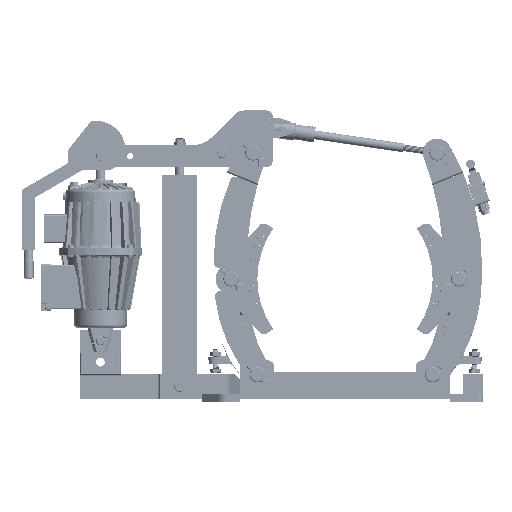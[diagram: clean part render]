
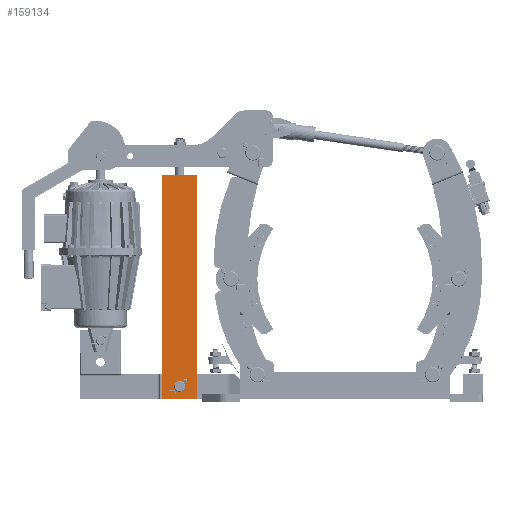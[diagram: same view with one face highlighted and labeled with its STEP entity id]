
A CAD part, left-side view. The second image highlights one B-rep face of the part: STEP entity #159134.
In plain terms, the highlighted planar face has unit normal (-1, 0, 0).
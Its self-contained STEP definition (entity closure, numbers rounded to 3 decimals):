
#158973=DIRECTION('',(0.,-1.,0.));
#158974=VECTOR('',#158973,80.);
#158975=CARTESIAN_POINT('',(-115.,731.046,517.5));
#158976=LINE('',#158975,#158974);
#158980=DIRECTION('',(0.,0.,-1.));
#158981=VECTOR('',#158980,512.5);
#158982=CARTESIAN_POINT('',(-115.,651.046,517.5));
#158983=LINE('',#158982,#158981);
#158987=DIRECTION('',(0.,1.,0.));
#158988=VECTOR('',#158987,80.);
#158989=CARTESIAN_POINT('',(-115.,651.046,5.));
#158990=LINE('',#158989,#158988);
#158994=DIRECTION('',(0.,0.,1.));
#158995=VECTOR('',#158994,512.5);
#158996=CARTESIAN_POINT('',(-115.,731.046,5.));
#158997=LINE('',#158996,#158995);
#159001=CARTESIAN_POINT('',(-115.,678.5,35.));
#159002=CARTESIAN_POINT('',(-115.,678.5,35.386));
#159003=CARTESIAN_POINT('',(-115.,678.536,36.155));
#159004=CARTESIAN_POINT('',(-115.,678.695,37.301));
#159005=CARTESIAN_POINT('',(-115.,678.96,38.426));
#159006=CARTESIAN_POINT('',(-115.,679.327,39.521));
#159007=CARTESIAN_POINT('',(-115.,679.795,40.581));
#159008=CARTESIAN_POINT('',(-115.,680.358,41.591));
#159009=CARTESIAN_POINT('',(-115.,681.012,42.546));
#159010=CARTESIAN_POINT('',(-115.,681.751,43.435));
#159011=CARTESIAN_POINT('',(-115.,682.569,44.252));
#159012=CARTESIAN_POINT('',(-115.,683.458,44.991));
#159013=CARTESIAN_POINT('',(-115.,684.412,45.644));
#159014=CARTESIAN_POINT('',(-115.,685.422,46.206));
#159015=CARTESIAN_POINT('',(-115.,686.48,46.673));
#159016=CARTESIAN_POINT('',(-115.,687.575,47.04));
#159017=CARTESIAN_POINT('',(-115.,688.699,47.305));
#159018=CARTESIAN_POINT('',(-115.,689.845,47.464));
#159019=CARTESIAN_POINT('',(-115.,690.614,47.5));
#159020=CARTESIAN_POINT('',(-115.,691.,47.5));
#159025=CARTESIAN_POINT('',(-115.,691.,47.5));
#159026=CARTESIAN_POINT('',(-115.,691.386,47.5));
#159027=CARTESIAN_POINT('',(-115.,692.155,47.464));
#159028=CARTESIAN_POINT('',(-115.,693.301,47.305));
#159029=CARTESIAN_POINT('',(-115.,694.426,47.04));
#159030=CARTESIAN_POINT('',(-115.,695.521,46.673));
#159031=CARTESIAN_POINT('',(-115.,696.581,46.205));
#159032=CARTESIAN_POINT('',(-115.,697.591,45.642));
#159033=CARTESIAN_POINT('',(-115.,698.546,44.988));
#159034=CARTESIAN_POINT('',(-115.,699.435,44.249));
#159035=CARTESIAN_POINT('',(-115.,700.252,43.431));
#159036=CARTESIAN_POINT('',(-115.,700.991,42.542));
#159037=CARTESIAN_POINT('',(-115.,701.644,41.588));
#159038=CARTESIAN_POINT('',(-115.,702.206,40.578));
#159039=CARTESIAN_POINT('',(-115.,702.673,39.52));
#159040=CARTESIAN_POINT('',(-115.,703.04,38.425));
#159041=CARTESIAN_POINT('',(-115.,703.305,37.301));
#159042=CARTESIAN_POINT('',(-115.,703.464,36.155));
#159043=CARTESIAN_POINT('',(-115.,703.5,35.386));
#159044=CARTESIAN_POINT('',(-115.,703.5,35.));
#159049=CARTESIAN_POINT('',(-115.,703.5,35.));
#159050=CARTESIAN_POINT('',(-115.,703.5,34.614));
#159051=CARTESIAN_POINT('',(-115.,703.464,33.845));
#159052=CARTESIAN_POINT('',(-115.,703.305,32.699));
#159053=CARTESIAN_POINT('',(-115.,703.04,31.574));
#159054=CARTESIAN_POINT('',(-115.,702.673,30.479));
#159055=CARTESIAN_POINT('',(-115.,702.205,29.419));
#159056=CARTESIAN_POINT('',(-115.,701.642,28.409));
#159057=CARTESIAN_POINT('',(-115.,700.988,27.454));
#159058=CARTESIAN_POINT('',(-115.,700.249,26.565));
#159059=CARTESIAN_POINT('',(-115.,699.431,25.748));
#159060=CARTESIAN_POINT('',(-115.,698.542,25.009));
#159061=CARTESIAN_POINT('',(-115.,697.588,24.356));
#159062=CARTESIAN_POINT('',(-115.,696.578,23.794));
#159063=CARTESIAN_POINT('',(-115.,695.52,23.327));
#159064=CARTESIAN_POINT('',(-115.,694.425,22.96));
#159065=CARTESIAN_POINT('',(-115.,693.301,22.695));
#159066=CARTESIAN_POINT('',(-115.,692.155,22.536));
#159067=CARTESIAN_POINT('',(-115.,691.386,22.5));
#159068=CARTESIAN_POINT('',(-115.,691.,22.5));
#159073=CARTESIAN_POINT('',(-115.,691.,22.5));
#159074=CARTESIAN_POINT('',(-115.,690.614,22.5));
#159075=CARTESIAN_POINT('',(-115.,689.845,22.536));
#159076=CARTESIAN_POINT('',(-115.,688.699,22.695));
#159077=CARTESIAN_POINT('',(-115.,687.574,22.96));
#159078=CARTESIAN_POINT('',(-115.,686.479,23.327));
#159079=CARTESIAN_POINT('',(-115.,685.419,23.795));
#159080=CARTESIAN_POINT('',(-115.,684.409,24.358));
#159081=CARTESIAN_POINT('',(-115.,683.454,25.012));
#159082=CARTESIAN_POINT('',(-115.,682.565,25.751));
#159083=CARTESIAN_POINT('',(-115.,681.748,26.569));
#159084=CARTESIAN_POINT('',(-115.,681.009,27.458));
#159085=CARTESIAN_POINT('',(-115.,680.356,28.412));
#159086=CARTESIAN_POINT('',(-115.,679.794,29.422));
#159087=CARTESIAN_POINT('',(-115.,679.327,30.48));
#159088=CARTESIAN_POINT('',(-115.,678.96,31.575));
#159089=CARTESIAN_POINT('',(-115.,678.695,32.699));
#159090=CARTESIAN_POINT('',(-115.,678.536,33.845));
#159091=CARTESIAN_POINT('',(-115.,678.5,34.614));
#159092=CARTESIAN_POINT('',(-115.,678.5,35.));
#159097=CARTESIAN_POINT('',(-115.,731.046,517.5));
#159098=CARTESIAN_POINT('',(-115.,651.046,517.5));
#159099=VERTEX_POINT('',#159097);
#159100=VERTEX_POINT('',#159098);
#159101=CARTESIAN_POINT('',(-115.,651.046,5.));
#159102=VERTEX_POINT('',#159101);
#159103=CARTESIAN_POINT('',(-115.,731.046,5.));
#159104=VERTEX_POINT('',#159103);
#159105=VERTEX_POINT('',#159001);
#159106=VERTEX_POINT('',#159020);
#159107=VERTEX_POINT('',#159044);
#159108=VERTEX_POINT('',#159068);
#159109=CARTESIAN_POINT('',(-115.,691.046,261.25));
#159110=DIRECTION('',(1.,0.,0.));
#159111=DIRECTION('',(0.,0.,-1.));
#159112=AXIS2_PLACEMENT_3D('',#159109,#159110,#159111);
#159113=PLANE('',#159112);
#159115=ORIENTED_EDGE('',*,*,#159114,.T.);
#159117=ORIENTED_EDGE('',*,*,#159116,.T.);
#159119=ORIENTED_EDGE('',*,*,#159118,.T.);
#159121=ORIENTED_EDGE('',*,*,#159120,.T.);
#159122=EDGE_LOOP('',(#159115,#159117,#159119,#159121));
#159123=FACE_OUTER_BOUND('',#159122,.F.);
#159125=ORIENTED_EDGE('',*,*,#159124,.T.);
#159127=ORIENTED_EDGE('',*,*,#159126,.T.);
#159129=ORIENTED_EDGE('',*,*,#159128,.T.);
#159131=ORIENTED_EDGE('',*,*,#159130,.T.);
#159132=EDGE_LOOP('',(#159125,#159127,#159129,#159131));
#159133=FACE_BOUND('',#159132,.F.);
#159134=ADVANCED_FACE('',(#159123,#159133),#159113,.F.);
#159021=B_SPLINE_CURVE_WITH_KNOTS('',3,(#159001,#159002,#159003,#159004,#159005,
#159006,#159007,#159008,#159009,#159010,#159011,#159012,#159013,#159014,#159015,
#159016,#159017,#159018,#159019,#159020),.UNSPECIFIED.,.F.,.F.,(4,1,1,1,1,1,1,1,
1,1,1,1,1,1,1,1,1,4),(0.,0.059,0.118,
0.176,0.235,0.294,0.353,
0.412,0.471,0.529,0.588,
0.647,0.706,0.765,0.824,
0.882,0.941,1.),.UNSPECIFIED.);
#159045=B_SPLINE_CURVE_WITH_KNOTS('',3,(#159025,#159026,#159027,#159028,#159029,
#159030,#159031,#159032,#159033,#159034,#159035,#159036,#159037,#159038,#159039,
#159040,#159041,#159042,#159043,#159044),.UNSPECIFIED.,.F.,.F.,(4,1,1,1,1,1,1,1,
1,1,1,1,1,1,1,1,1,4),(0.,0.059,0.118,
0.176,0.235,0.294,0.353,
0.412,0.471,0.529,0.588,
0.647,0.706,0.765,0.824,
0.882,0.941,1.),.UNSPECIFIED.);
#159069=B_SPLINE_CURVE_WITH_KNOTS('',3,(#159049,#159050,#159051,#159052,#159053,
#159054,#159055,#159056,#159057,#159058,#159059,#159060,#159061,#159062,#159063,
#159064,#159065,#159066,#159067,#159068),.UNSPECIFIED.,.F.,.F.,(4,1,1,1,1,1,1,1,
1,1,1,1,1,1,1,1,1,4),(0.,0.059,0.118,
0.176,0.235,0.294,0.353,
0.412,0.471,0.529,0.588,
0.647,0.706,0.765,0.824,
0.882,0.941,1.),.UNSPECIFIED.);
#159093=B_SPLINE_CURVE_WITH_KNOTS('',3,(#159073,#159074,#159075,#159076,#159077,
#159078,#159079,#159080,#159081,#159082,#159083,#159084,#159085,#159086,#159087,
#159088,#159089,#159090,#159091,#159092),.UNSPECIFIED.,.F.,.F.,(4,1,1,1,1,1,1,1,
1,1,1,1,1,1,1,1,1,4),(0.,0.059,0.118,
0.176,0.235,0.294,0.353,
0.412,0.471,0.529,0.588,
0.647,0.706,0.765,0.824,
0.882,0.941,1.),.UNSPECIFIED.);
#159114=EDGE_CURVE('',#159099,#159100,#158976,.T.);
#159116=EDGE_CURVE('',#159100,#159102,#158983,.T.);
#159118=EDGE_CURVE('',#159102,#159104,#158990,.T.);
#159120=EDGE_CURVE('',#159104,#159099,#158997,.T.);
#159124=EDGE_CURVE('',#159105,#159106,#159021,.T.);
#159126=EDGE_CURVE('',#159106,#159107,#159045,.T.);
#159128=EDGE_CURVE('',#159107,#159108,#159069,.T.);
#159130=EDGE_CURVE('',#159108,#159105,#159093,.T.);
